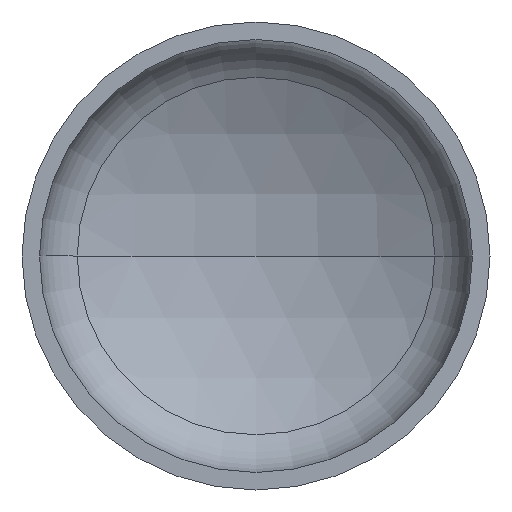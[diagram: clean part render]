
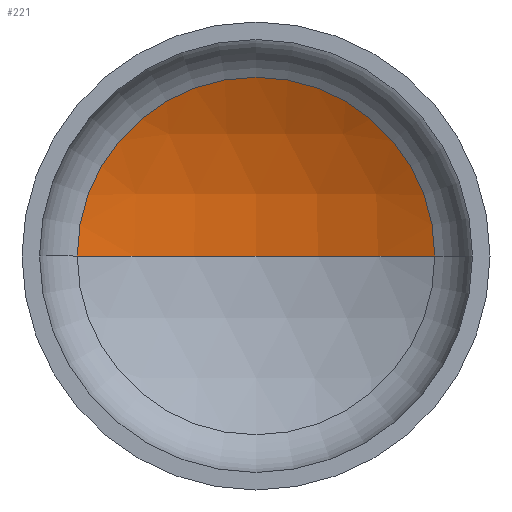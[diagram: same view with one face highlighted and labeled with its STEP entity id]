
A CAD part, front view. The second image highlights one B-rep face of the part: STEP entity #221.
In plain terms, the highlighted spherical face has radius 960 mm.
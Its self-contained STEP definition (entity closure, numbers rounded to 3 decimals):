
#14 = EDGE_LOOP ( 'NONE', ( #22, #110, #104 ) ) ;
#18 = AXIS2_PLACEMENT_3D ( 'NONE', #211, #214, #351 ) ;
#21 = AXIS2_PLACEMENT_3D ( 'NONE', #165, #157, #160 ) ;
#22 = ORIENTED_EDGE ( 'NONE', *, *, #387, .F. ) ;
#39 = AXIS2_PLACEMENT_3D ( 'NONE', #156, #200, #238 ) ;
#62 = CIRCLE ( 'NONE', #21, 458.323 ) ;
#72 = VERTEX_POINT ( 'NONE', #260 ) ;
#93 = VERTEX_POINT ( 'NONE', #346 ) ;
#104 = ORIENTED_EDGE ( 'NONE', *, *, #336, .T. ) ;
#110 = ORIENTED_EDGE ( 'NONE', *, *, #343, .T. ) ;
#116 = VERTEX_POINT ( 'NONE', #299 ) ;
#136 = AXIS2_PLACEMENT_3D ( 'NONE', #219, #385, #245 ) ;
#156 = CARTESIAN_POINT ( 'NONE',  ( 0., -540.974, 0. ) ) ;
#157 = DIRECTION ( 'NONE',  ( 0., -1., 0. ) ) ;
#160 = DIRECTION ( 'NONE',  ( 1., 0., 0. ) ) ;
#165 = CARTESIAN_POINT ( 'NONE',  ( 0., 302.555, 0. ) ) ;
#173 = CIRCLE ( 'NONE', #18, 960. ) ;
#193 = FACE_OUTER_BOUND ( 'NONE', #14, .T. ) ;
#200 = DIRECTION ( 'NONE',  ( 0., 0., -1. ) ) ;
#211 = CARTESIAN_POINT ( 'NONE',  ( 0., -540.974, 0. ) ) ;
#214 = DIRECTION ( 'NONE',  ( 0., 0., -1. ) ) ;
#219 = CARTESIAN_POINT ( 'NONE',  ( 0., -540.974, 0. ) ) ;
#221 = ADVANCED_FACE ( 'NONE', ( #193 ), #320, .F. ) ;
#238 = DIRECTION ( 'NONE',  ( -1., 0., 0. ) ) ;
#245 = DIRECTION ( 'NONE',  ( 1., 0., 0. ) ) ;
#260 = CARTESIAN_POINT ( 'NONE',  ( 0., 419.026, 0. ) ) ;
#274 = CIRCLE ( 'NONE', #136, 960. ) ;
#299 = CARTESIAN_POINT ( 'NONE',  ( -458.323, 302.555, 0. ) ) ;
#320 = SPHERICAL_SURFACE ( 'NONE', #39, 960. ) ;
#336 = EDGE_CURVE ( 'NONE', #93, #116, #62, .T. ) ;
#343 = EDGE_CURVE ( 'NONE', #72, #93, #173, .T. ) ;
#346 = CARTESIAN_POINT ( 'NONE',  ( 458.323, 302.555, 0. ) ) ;
#351 = DIRECTION ( 'NONE',  ( -1., 0., 0. ) ) ;
#385 = DIRECTION ( 'NONE',  ( 0., 0., 1. ) ) ;
#387 = EDGE_CURVE ( 'NONE', #72, #116, #274, .T. ) ;
